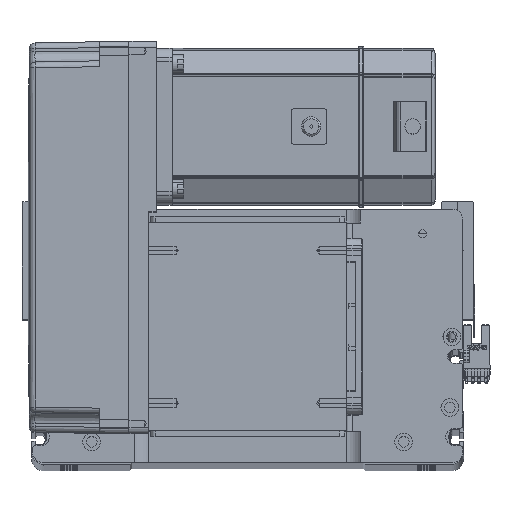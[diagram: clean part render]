
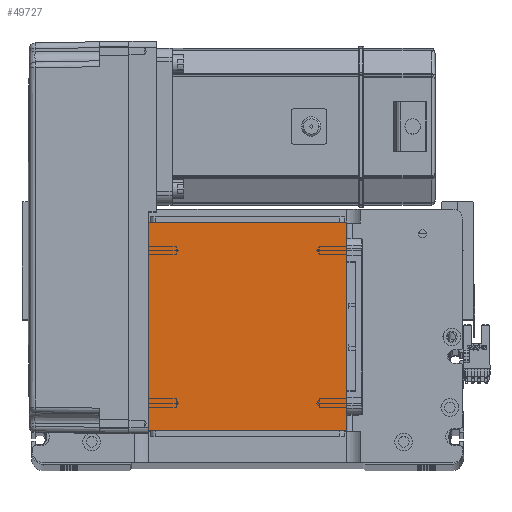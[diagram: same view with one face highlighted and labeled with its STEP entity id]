
A CAD part, top view. The second image highlights one B-rep face of the part: STEP entity #49727.
In plain terms, the highlighted planar face has unit normal (0, 0, 1).
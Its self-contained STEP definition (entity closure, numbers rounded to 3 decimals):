
#134 = DIRECTION ( 'NONE',  ( 0., -1., 0. ) ) ;
#656 = PLANE ( 'NONE',  #18543 ) ;
#1371 = DIRECTION ( 'NONE',  ( 0., 0., 1. ) ) ;
#2535 = CARTESIAN_POINT ( 'NONE',  ( -50.5, 16., 115. ) ) ;
#4076 = FACE_OUTER_BOUND ( 'NONE', #37150, .T. ) ;
#4430 = VERTEX_POINT ( 'NONE', #2535 ) ;
#4550 = DIRECTION ( 'NONE',  ( -1., 0., 0. ) ) ;
#8223 = VERTEX_POINT ( 'NONE', #42594 ) ;
#9909 = ORIENTED_EDGE ( 'NONE', *, *, #16833, .T. ) ;
#10415 = CARTESIAN_POINT ( 'NONE',  ( 50.5, 122., 115. ) ) ;
#12844 = LINE ( 'NONE', #34831, #35308 ) ;
#13362 = LINE ( 'NONE', #20893, #17949 ) ;
#16833 = EDGE_CURVE ( 'NONE', #8223, #4430, #13362, .T. ) ;
#17541 = CARTESIAN_POINT ( 'NONE',  ( 50.5, 122., 115. ) ) ;
#17949 = VECTOR ( 'NONE', #134, 1000. ) ;
#18274 = VERTEX_POINT ( 'NONE', #35477 ) ;
#18543 = AXIS2_PLACEMENT_3D ( 'NONE', #26752, #1371, #35241 ) ;
#20893 = CARTESIAN_POINT ( 'NONE',  ( -50.5, 122., 115. ) ) ;
#21005 = CARTESIAN_POINT ( 'NONE',  ( -50.5, 16., 115. ) ) ;
#26147 = LINE ( 'NONE', #17541, #53216 ) ;
#26439 = ORIENTED_EDGE ( 'NONE', *, *, #42840, .T. ) ;
#26752 = CARTESIAN_POINT ( 'NONE',  ( 0., 0., 115. ) ) ;
#29082 = LINE ( 'NONE', #21005, #34374 ) ;
#32208 = ORIENTED_EDGE ( 'NONE', *, *, #53882, .T. ) ;
#34374 = VECTOR ( 'NONE', #42616, 1000. ) ;
#34831 = CARTESIAN_POINT ( 'NONE',  ( -50.5, 122., 115. ) ) ;
#35085 = ORIENTED_EDGE ( 'NONE', *, *, #44249, .T. ) ;
#35241 = DIRECTION ( 'NONE',  ( 1., 0., 0. ) ) ;
#35308 = VECTOR ( 'NONE', #4550, 1000. ) ;
#35477 = CARTESIAN_POINT ( 'NONE',  ( 50.5, 16., 115. ) ) ;
#37150 = EDGE_LOOP ( 'NONE', ( #9909, #35085, #26439, #32208 ) ) ;
#42594 = CARTESIAN_POINT ( 'NONE',  ( -50.5, 122., 115. ) ) ;
#42616 = DIRECTION ( 'NONE',  ( 1., 0., 0. ) ) ;
#42840 = EDGE_CURVE ( 'NONE', #18274, #54098, #26147, .T. ) ;
#44249 = EDGE_CURVE ( 'NONE', #4430, #18274, #29082, .T. ) ;
#49727 = ADVANCED_FACE ( 'NONE', ( #4076 ), #656, .T. ) ;
#51010 = DIRECTION ( 'NONE',  ( 0., 1., 0. ) ) ;
#53216 = VECTOR ( 'NONE', #51010, 1000. ) ;
#53882 = EDGE_CURVE ( 'NONE', #54098, #8223, #12844, .T. ) ;
#54098 = VERTEX_POINT ( 'NONE', #10415 ) ;
